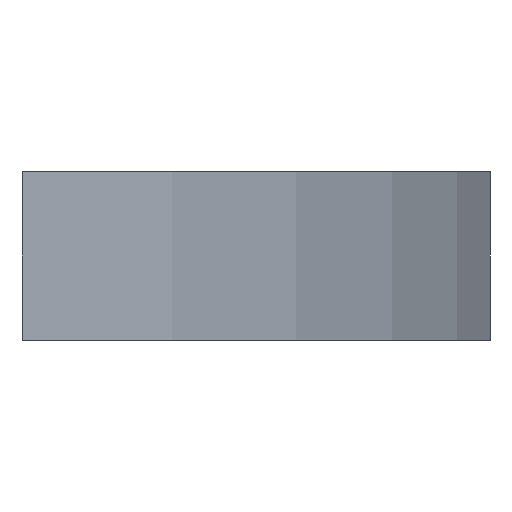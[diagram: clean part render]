
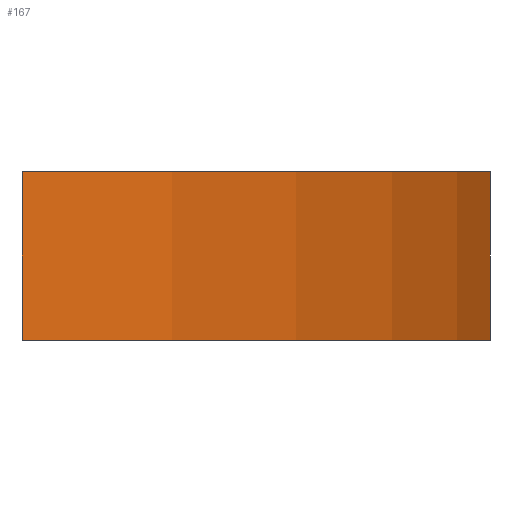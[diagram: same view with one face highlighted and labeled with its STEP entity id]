
A CAD part, left-side view. The second image highlights one B-rep face of the part: STEP entity #167.
In plain terms, the highlighted cylindrical face has radius 84.875 mm (diameter 169.75 mm), a partial arc.
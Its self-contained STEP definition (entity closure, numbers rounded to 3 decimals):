
#101 = VERTEX_POINT( '', #271 );
#119 = EDGE_CURVE( '', #181, #247, #291, .T. );
#135 = EDGE_CURVE( '', #183, #181, #310, .T. );
#167 = ADVANCED_FACE( '', ( #345 ), #346, .T. );
#169 = EDGE_CURVE( '', #183, #101, #348, .T. );
#181 = VERTEX_POINT( '', #362 );
#183 = VERTEX_POINT( '', #364 );
#193 = EDGE_CURVE( '', #101, #247, #374, .T. );
#247 = VERTEX_POINT( '', #434 );
#271 = CARTESIAN_POINT( '', ( -15., 0., -5. ) );
#291 = LINE( '', #476, #477 );
#310 = CIRCLE( '', #501, 84.875 );
#345 = FACE_OUTER_BOUND( '', #544, .T. );
#346 = CYLINDRICAL_SURFACE( '', #545, 84.875 );
#348 = LINE( '', #548, #549 );
#362 = CARTESIAN_POINT( '', ( 111., 0., 5. ) );
#364 = CARTESIAN_POINT( '', ( -15., 0., 5. ) );
#374 = CIRCLE( '', #585, 84.875 );
#434 = CARTESIAN_POINT( '', ( 111., 0., -5. ) );
#476 = CARTESIAN_POINT( '', ( 111., 0., 5. ) );
#477 = VECTOR( '', #689, 1. );
#501 = AXIS2_PLACEMENT_3D( '', #714, #715, #716 );
#544 = EDGE_LOOP( '', ( #761, #762, #763, #764 ) );
#545 = AXIS2_PLACEMENT_3D( '', #765, #766, #767 );
#548 = CARTESIAN_POINT( '', ( -15., 0., 5. ) );
#549 = VECTOR( '', #768, 1. );
#585 = AXIS2_PLACEMENT_3D( '', #801, #802, #803 );
#689 = DIRECTION( '', ( 0., 0., -1. ) );
#714 = CARTESIAN_POINT( '', ( 48., 56.875, 5. ) );
#715 = DIRECTION( '', ( 0., 0., 1. ) );
#716 = DIRECTION( '', ( -0.742, -0.67, 0. ) );
#761 = ORIENTED_EDGE( '', *, *, #193, .T. );
#762 = ORIENTED_EDGE( '', *, *, #119, .F. );
#763 = ORIENTED_EDGE( '', *, *, #135, .F. );
#764 = ORIENTED_EDGE( '', *, *, #169, .T. );
#765 = CARTESIAN_POINT( '', ( 48., 56.875, 5. ) );
#766 = DIRECTION( '', ( 0., 0., 1. ) );
#767 = DIRECTION( '', ( -0.742, -0.67, 0. ) );
#768 = DIRECTION( '', ( 0., 0., -1. ) );
#801 = CARTESIAN_POINT( '', ( 48., 56.875, -5. ) );
#802 = DIRECTION( '', ( 0., 0., 1. ) );
#803 = DIRECTION( '', ( -0.742, -0.67, 0. ) );
